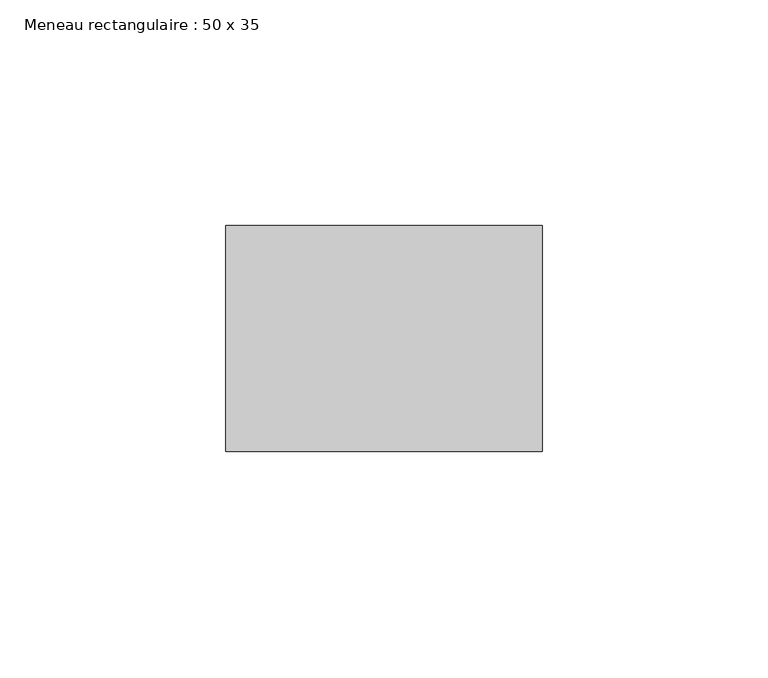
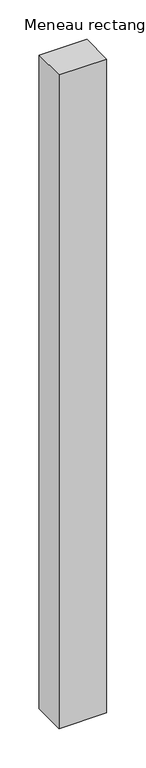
"""IFC4 building model written with IfcOpenShell, lengths in millimetres: member geometry, Meneau rectangulaire : 50 x 35."""

from ifc_helpers import new_model, si_unit, frame, origin, place, context, project, spatial, polyline, outline, extrude, source, transform, mapped, element, save


def meneau_rectangulaire_50_x_35_320a3e22(model_context):
    return source(origin(), model_context, "Body", "SweptSolid", [
        extrude(outline(polyline([(0.0, 0.0), (0.0, -50.0), (-70.0, -50.0), (-70.0, 0.0), (0.0, 0.0)])), frame((0.0, 0.0, -1012.0), z_axis=(0.0, 0.0, 1.0), x_axis=(1.0, 0.0, 0.0)), (0.0, 0.0, 1.0), 1012.0),
    ])


if __name__ == "__main__":
    model = new_model("IFC4")
    model_context = context("Model", 3, world=origin())
    ifc_project = project(units=[si_unit("LENGTHUNIT", "METRE", prefix="MILLI")], contexts=[model_context])
    site = spatial("IfcSite", under=ifc_project)
    building = spatial("IfcBuilding", under=site)
    placement = place(None, origin())
    meneau_rectangulaire_50_x_35_shape = meneau_rectangulaire_50_x_35_320a3e22(model_context)
    element("IfcMember", 1, ObjectType="Meneau rectangulaire : 50 x 35", at=placement, inside=building, context=model_context, shape_type="MappedRepresentation", body=[
        mapped(meneau_rectangulaire_50_x_35_shape, transform((0.0, 0.0, 0.0), x_axis=(1.0, 0.0, 0.0), y_axis=(0.0, 1.0, 0.0), z_axis=(0.0, 0.0, 1.0))),
    ])
    save(model, "model.ifc")
